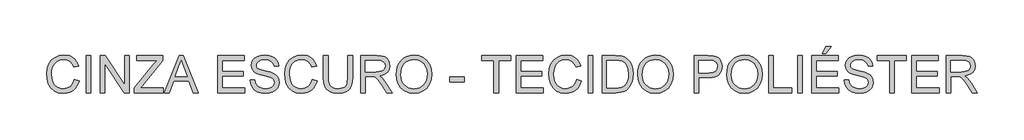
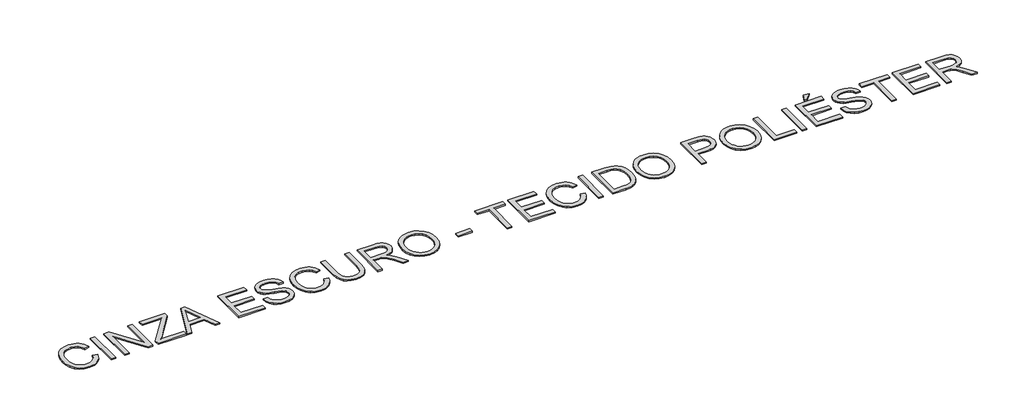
# One storey, part 29 of 67: 1 proxy.
"""IFC4 building model written with IfcOpenShell, lengths in millimetres."""

from ifc_helpers import new_model, si_unit, origin, origin_with_axes, place, context, project, spatial, polyline, outline, extrude, element, save

model = new_model("IFC4")

# Units and contexts
model_context = context("Model", 3, world=origin())
ifc_project = project(units=[si_unit("LENGTHUNIT", "METRE", prefix="MILLI")], contexts=[model_context])

# Site, building, storey
site = spatial("IfcSite", under=ifc_project)
building = spatial("IfcBuilding", under=site)
storey = spatial("IfcBuildingStorey", under=building, Name="Marelli - Linha COLAB - Planta Baixa", Elevation=0.0)

# Proxy
placement = place(None, origin())
element("IfcBuildingElementProxy", 1, Name="300mm Arial", ObjectType="300mm Arial", at=placement, inside=storey, context=model_context, shape_type="SweptSolid", body=[
    extrude(outline(polyline([(4863.1827266, -102423.4390831), (4900.8538429, -102433.1511677), (4893.399634, -102456.5783531), (4883.4714186, -102477.0486868), (4871.0691969, -102494.5621691), (4856.1929687, -102509.1187997), (4839.1784264, -102520.5622291), (4820.3612624, -102528.7361071), (4799.7414765, -102533.640434), (4777.3190689, -102535.2752096), (4733.6238849, -102530.3271968), (4698.9234157, -102515.4831583), (4672.3255475, -102491.2581289), (4652.9381663, -102458.1671434), (4641.1015632, -102419.2636224), (4637.1560288, -102377.6009865), (4641.6165979, -102333.6574821), (4654.9983055, -102295.7104543), (4676.6021757, -102264.9647166), (4705.7292327, -102242.6250824), (4740.273352, -102229.0226457), (4778.1284093, -102224.4885001), (4819.4323603, -102230.3562179), (4837.4010965, -102237.6908652), (4853.5810065, -102247.9593714), (4867.7053759, -102260.8904235), (4879.5074901, -102276.2127086), (4896.1449534, -102314.0309777), (4858.4738371, -102323.0072984), (4845.4140262, -102295.5357104), (4827.5717495, -102276.6909552), (4804.7262776, -102265.7924511), (4776.6568813, -102262.1596164), (4744.3016599, -102266.1879242), (4717.7221857, -102278.2728478), (4697.5530553, -102297.1451941), (4684.4288651, -102321.5357704), (4677.2275751, -102349.1085259), (4674.8271451, -102377.5274101), (4677.6690335, -102412.3290468), (4686.1946987, -102442.421794), (4700.7260375, -102466.6560205), (4721.5849466, -102483.8820949), (4746.5917253, -102494.1735937), (4773.5666726, -102497.6040933), (4805.0113861, -102492.931992), (4831.2137812, -102478.9156879), (4850.9966355, -102455.702334), (4863.1827266, -102423.4390831)])), origin_with_axes(), (0.0, 0.0, 1.0), 10.0),
    extrude(outline(polyline([(4957.3605174, -102530.5663201), (4957.3605174, -102229.1973896), (4995.0316337, -102229.1973896), (4995.0316337, -102530.5663201), (4957.3605174, -102530.5663201)])), origin_with_axes(), (0.0, 0.0, 1.0), 10.0),
    extrude(outline(polyline([(5070.3738663, -102530.5663201), (5070.3738663, -102229.1973896), (5110.6937329, -102229.1973896), (5268.1472269, -102467.9528045), (5268.1472269, -102229.1973896), (5305.8183432, -102229.1973896), (5305.8183432, -102530.5663201), (5265.4984765, -102530.5663201), (5108.0449826, -102291.7373288), (5108.0449826, -102530.5663201), (5070.3738663, -102530.5663201)])), origin_with_axes(), (0.0, 0.0, 1.0), 10.0),
    extrude(outline(polyline([(5348.198349, -102530.5663201), (5348.198349, -102491.4972522), (5502.340905, -102302.7737887), (5531.6243118, -102266.8685059), (5367.0339072, -102266.8685059), (5367.0339072, -102229.1973896), (5578.9339364, -102229.1973896), (5578.9339364, -102266.8685059), (5410.2232534, -102473.397458), (5394.3307512, -102492.8952038), (5583.6428259, -102492.8952038), (5583.6428259, -102530.5663201), (5348.198349, -102530.5663201)])), origin_with_axes(), (0.0, 0.0, 1.0), 10.0),
    extrude(outline(polyline([(5590.9268895, -102530.5663201), (5711.2243019, -102229.1973896), (5743.3036119, -102229.1973896), (5863.6010243, -102530.5663201), (5823.7961924, -102530.5663201), (5789.2888613, -102436.3885293), (5665.1654761, -102436.3885293), (5630.7317213, -102530.5663201), (5590.9268895, -102530.5663201)]), holes=[polyline([(5678.9978391, -102398.717413), (5775.5300746, -102398.717413), (5748.3803834, -102324.6259792), (5727.2639569, -102266.8685059), (5708.5019751, -102318.1512561), (5678.9978391, -102398.717413)])]), origin_with_axes(), (0.0, 0.0, 1.0), 10.0),
    extrude(outline(polyline([(6021.569553, -102530.5663201), (6021.569553, -102229.1973896), (6238.1784718, -102229.1973896), (6238.1784718, -102266.8685059), (6059.2406693, -102266.8685059), (6059.2406693, -102356.3374072), (6228.7606927, -102356.3374072), (6228.7606927, -102394.0085235), (6059.2406693, -102394.0085235), (6059.2406693, -102492.8952038), (6242.8873613, -102492.8952038), (6242.8873613, -102530.5663201), (6021.569553, -102530.5663201)])), origin_with_axes(), (0.0, 0.0, 1.0), 10.0),
    extrude(outline(polyline([(6285.2673671, -102426.9707502), (6322.9384835, -102426.9707502), (6327.2610969, -102447.8756446), (6335.0785893, -102464.6786547), (6347.2738774, -102478.0143771), (6364.7298781, -102488.517408), (6386.0670338, -102495.332422), (6409.9057871, -102497.6040933), (6430.8934549, -102495.884245), (6449.2691606, -102490.7247), (6464.1591844, -102482.5577197), (6474.6898065, -102471.8155654), (6480.9529974, -102459.4823216), (6483.0407278, -102446.5420724), (6481.4772293, -102433.932917), (6476.7867338, -102423.0344129), (6467.2585902, -102413.7361954), (6451.182147, -102405.9279001), (6396.3309415, -102391.5437141), (6360.3244912, -102382.0247675), (6337.2858813, -102372.9656733), (6318.5330966, -102360.2921386), (6305.2433595, -102344.9330653), (6297.3246995, -102327.2195472), (6294.6851462, -102307.4826782), (6297.9500989, -102285.4189555), (6307.7449571, -102264.845155), (6323.8122032, -102247.4075484), (6345.89432, -102234.7524077), (6372.4002177, -102227.054477), (6401.7388068, -102224.4885001), (6433.5238112, -102227.1740386), (6461.33569, -102235.2306543), (6484.1811619, -102248.4928003), (6501.0669455, -102266.7949295), (6511.7539175, -102288.9966079), (6516.0029545, -102313.9574013), (6478.3318382, -102313.9574013), (6471.4156567, -102291.4798114), (6456.9946825, -102275.2562154), (6434.4619103, -102265.4337661), (6403.2103348, -102262.1596164), (6371.2229953, -102265.3969779), (6349.2788343, -102275.1090626), (6336.5869055, -102289.4012781), (6332.3562625, -102306.3790322), (6335.3545008, -102320.8551887), (6344.3492156, -102332.4986539), (6365.6127949, -102342.9097143), (6405.8590852, -102353.541504), (6447.3929624, -102363.6398648), (6472.5193027, -102372.4506385), (6493.9944142, -102386.1174547), (6508.9764084, -102402.9848441), (6517.7779851, -102422.868866), (6520.7118441, -102445.5855792), (6517.3365268, -102468.8081301), (6507.2105748, -102490.6511236), (6490.7478556, -102509.4498935), (6468.3622361, -102523.539774), (6441.4424711, -102532.3413507), (6411.3773151, -102535.2752096), (6374.4695539, -102532.1114244), (6344.0916982, -102522.620069), (6319.8942599, -102506.764355), (6301.5277513, -102484.5074943), (6289.7371334, -102457.3945912), (6285.2673671, -102426.9707502)])), origin_with_axes(), (0.0, 0.0, 1.0), 10.0),
    extrude(outline(polyline([(6789.1185477, -102423.4390831), (6826.789664, -102433.1511677), (6819.3354551, -102456.5783531), (6809.4072398, -102477.0486868), (6797.005018, -102494.5621691), (6782.1287898, -102509.1187997), (6765.1142476, -102520.5622291), (6746.2970835, -102528.7361071), (6725.6772977, -102533.640434), (6703.2548901, -102535.2752096), (6659.5597061, -102530.3271968), (6624.8592369, -102515.4831583), (6598.2613686, -102491.2581289), (6578.8739875, -102458.1671434), (6567.0373843, -102419.2636224), (6563.0918499, -102377.6009865), (6567.5524191, -102333.6574821), (6580.9341267, -102295.7104543), (6602.5379968, -102264.9647166), (6631.6650538, -102242.6250824), (6666.2091732, -102229.0226457), (6704.0642305, -102224.4885001), (6745.3681815, -102230.3562179), (6763.3369177, -102237.6908652), (6779.5168277, -102247.9593714), (6793.641197, -102260.8904235), (6805.4433113, -102276.2127086), (6822.0807745, -102314.0309777), (6784.4096582, -102323.0072984), (6771.3498474, -102295.5357104), (6753.5075706, -102276.6909552), (6730.6620987, -102265.7924511), (6702.5927025, -102262.1596164), (6670.237481, -102266.1879242), (6643.6580068, -102278.2728478), (6623.4888765, -102297.1451941), (6610.3646863, -102321.5357704), (6603.1633962, -102349.1085259), (6600.7629662, -102377.5274101), (6603.6048546, -102412.3290468), (6612.1305199, -102442.421794), (6626.6618587, -102466.6560205), (6647.5207678, -102483.8820949), (6672.5275464, -102494.1735937), (6699.5024937, -102497.6040933), (6730.9472073, -102492.931992), (6757.1496024, -102478.9156879), (6776.9324567, -102455.702334), (6789.1185477, -102423.4390831)])), origin_with_axes(), (0.0, 0.0, 1.0), 10.0),
    extrude(outline(polyline([(7076.3608096, -102229.1973896), (7114.0319259, -102229.1973896), (7114.0319259, -102403.0584205), (7111.475146, -102443.7737604), (7103.8048064, -102475.1265034), (7089.4758027, -102499.3147446), (7066.9430305, -102518.5365788), (7036.1513075, -102531.0905519), (6997.0454514, -102535.2752096), (6958.794921, -102531.6331779), (6928.2147301, -102520.7070826), (6905.2956818, -102502.8740029), (6890.028579, -102478.5110178), (6881.4477315, -102445.8338995), (6878.587449, -102403.0584205), (6878.587449, -102229.1973896), (6916.2585653, -102229.1973896), (6916.2585653, -102401.7340454), (6918.1163694, -102435.588386), (6923.6897816, -102459.1604248), (6933.7881423, -102475.4851883), (6949.220792, -102487.597703), (6969.3439372, -102495.1024957), (6993.5137843, -102497.6040933), (7031.8286941, -102492.6560805), (7046.1714933, -102486.4710644), (7057.3045222, -102477.812042), (7065.6416479, -102465.6351479), (7071.5967377, -102448.8965171), (7076.3608096, -102401.7340454), (7076.3608096, -102229.1973896)])), origin_with_axes(), (0.0, 0.0, 1.0), 10.0),
    extrude(outline(polyline([(7179.9563794, -102530.5663201), (7179.9563794, -102229.1973896), (7309.8187237, -102229.1973896), (7344.721528, -102231.2299376), (7370.1145827, -102237.3275817), (7388.6742294, -102248.5847708), (7403.0768095, -102266.0959537), (7412.3198446, -102287.8101885), (7415.4008563, -102311.6765329), (7410.2964936, -102341.3646099), (7394.9834056, -102365.9759154), (7383.3836264, -102376.0052983), (7369.0017397, -102384.0205273), (7331.8916434, -102394.0085235), (7353.3023755, -102410.1217548), (7383.8365811, -102448.8965171), (7434.0892617, -102530.5663201), (7390.3113043, -102530.5663201), (7351.0950836, -102468.0999573), (7322.7681699, -102426.750021), (7302.865754, -102407.2154871), (7284.9499008, -102400.0417882), (7263.0977103, -102398.717413), (7217.6274957, -102398.717413), (7217.6274957, -102530.5663201), (7179.9563794, -102530.5663201)]), holes=[polyline([(7217.6274957, -102361.0462967), (7301.946049, -102361.0462967), (7326.1618814, -102359.7127245), (7344.9514543, -102355.7120078), (7359.096517, -102348.7774322), (7369.3788187, -102338.6422832), (7375.6420097, -102326.3826157), (7377.72974, -102313.0744845), (7373.7474174, -102294.6987789), (7361.8004496, -102279.8915286), (7341.2450432, -102270.1242616), (7311.4374045, -102266.8685059), (7217.6274957, -102266.8685059), (7217.6274957, -102361.0462967)])]), origin_with_axes(), (0.0, 0.0, 1.0), 10.0),
    extrude(outline(polyline([(7467.1986413, -102383.8549804), (7469.7094359, -102348.5061192), (7477.2418197, -102317.213157), (7489.7957928, -102289.9760937), (7507.3713551, -102266.7949295), (7528.9154445, -102248.2858666), (7553.3749986, -102235.0651074), (7580.7500176, -102227.1326519), (7611.0405014, -102224.4885001), (7650.5694217, -102229.454907), (7686.014852, -102244.3541278), (7715.4454116, -102268.1376988), (7736.9297201, -102299.7571563), (7750.0631073, -102337.68579), (7754.4409031, -102380.3968896), (7749.8331811, -102423.6782064), (7736.0100151, -102462.140269), (7713.7347603, -102493.8149087), (7683.7707718, -102516.733957), (7648.6288442, -102530.6398965), (7610.8197722, -102535.2752096), (7570.6838465, -102530.1524528), (7535.0360812, -102514.7841825), (7505.6790979, -102490.5591531), (7484.4155186, -102458.8661192), (7471.5028606, -102422.3998164), (7467.1986413, -102383.8549804)]), holes=[polyline([(7504.8697576, -102384.2228624), (7506.7528535, -102409.1974513), (7512.4021414, -102431.3669401), (7521.8176212, -102450.7313286), (7534.999293, -102467.2906169), (7551.0228531, -102480.5527628), (7568.9639982, -102490.0257242), (7588.8227281, -102495.709501), (7610.599043, -102497.6040933), (7632.7478383, -102495.6911069), (7652.8410931, -102489.9521478), (7670.8788071, -102480.3872159), (7686.8609806, -102466.9963113), (7699.9460833, -102450.0875351), (7709.2925852, -102429.9689885), (7714.9004864, -102406.6406715), (7716.7697868, -102380.102584), (7713.5692134, -102346.7540812), (7703.9674933, -102317.9305269), (7688.2129469, -102294.358488), (7666.5538944, -102276.7645316), (7640.4250757, -102265.8108452), (7611.2612306, -102262.1596164), (7590.2413731, -102263.9185522), (7570.7390288, -102269.1953595), (7552.7541978, -102277.9900385), (7536.2868799, -102290.302589), (7522.5418889, -102306.7262208), (7512.7240382, -102327.8541437), (7506.8333277, -102353.6863575), (7504.8697576, -102384.2228624)])]), origin_with_axes(), (0.0, 0.0, 1.0), 10.0),
    extrude(outline(polyline([(7900.4164788, -102441.0974188), (7900.4164788, -102403.4263025), (8018.1387172, -102403.4263025), (8018.1387172, -102441.0974188), (7900.4164788, -102441.0974188)])), origin_with_axes(), (0.0, 0.0, 1.0), 10.0),
    extrude(outline(polyline([(8258.2920837, -102530.5663201), (8258.2920837, -102266.8685059), (8159.4054034, -102266.8685059), (8159.4054034, -102229.1973896), (8394.8498803, -102229.1973896), (8394.8498803, -102266.8685059), (8295.9632, -102266.8685059), (8295.9632, -102530.5663201), (8258.2920837, -102530.5663201)])), origin_with_axes(), (0.0, 0.0, 1.0), 10.0),
    extrude(outline(polyline([(8437.2298861, -102530.5663201), (8437.2298861, -102229.1973896), (8653.8388049, -102229.1973896), (8653.8388049, -102266.8685059), (8474.9010024, -102266.8685059), (8474.9010024, -102356.3374072), (8644.4210258, -102356.3374072), (8644.4210258, -102394.0085235), (8474.9010024, -102394.0085235), (8474.9010024, -102492.8952038), (8658.5476944, -102492.8952038), (8658.5476944, -102530.5663201), (8437.2298861, -102530.5663201)])), origin_with_axes(), (0.0, 0.0, 1.0), 10.0),
    extrude(outline(polyline([(8926.9543981, -102423.4390831), (8964.6255144, -102433.1511677), (8957.1713055, -102456.5783531), (8947.2430901, -102477.0486868), (8934.8408684, -102494.5621691), (8919.9646402, -102509.1187997), (8902.9500979, -102520.5622291), (8884.1329339, -102528.7361071), (8863.513148, -102533.640434), (8841.0907404, -102535.2752096), (8797.3955565, -102530.3271968), (8762.6950873, -102515.4831583), (8736.097219, -102491.2581289), (8716.7098379, -102458.1671434), (8704.8732347, -102419.2636224), (8700.9277003, -102377.6009865), (8705.3882695, -102333.6574821), (8718.769977, -102295.7104543), (8740.3738472, -102264.9647166), (8769.5009042, -102242.6250824), (8804.0450235, -102229.0226457), (8841.9000808, -102224.4885001), (8883.2040318, -102230.3562179), (8901.172768, -102237.6908652), (8917.352678, -102247.9593714), (8931.4770474, -102260.8904235), (8943.2791616, -102276.2127086), (8959.9166249, -102314.0309777), (8922.2455086, -102323.0072984), (8909.1856977, -102295.5357104), (8891.343421, -102276.6909552), (8868.4979491, -102265.7924511), (8840.4285528, -102262.1596164), (8808.0733314, -102266.1879242), (8781.4938572, -102278.2728478), (8761.3247268, -102297.1451941), (8748.2005367, -102321.5357704), (8740.9992466, -102349.1085259), (8738.5988166, -102377.5274101), (8741.440705, -102412.3290468), (8749.9663702, -102442.421794), (8764.497709, -102466.6560205), (8785.3566182, -102483.8820949), (8810.3633968, -102494.1735937), (8837.3383441, -102497.6040933), (8868.7830576, -102492.931992), (8894.9854527, -102478.9156879), (8914.768307, -102455.702334), (8926.9543981, -102423.4390831)])), origin_with_axes(), (0.0, 0.0, 1.0), 10.0),
    extrude(outline(polyline([(9021.1321889, -102530.5663201), (9021.1321889, -102229.1973896), (9058.8033052, -102229.1973896), (9058.8033052, -102530.5663201), (9021.1321889, -102530.5663201)])), origin_with_axes(), (0.0, 0.0, 1.0), 10.0),
    extrude(outline(polyline([(9134.1455378, -102530.5663201), (9134.1455378, -102229.1973896), (9238.1089896, -102229.1973896), (9291.8933373, -102233.5383972), (9315.9160316, -102241.9077126), (9336.1863295, -102255.0962821), (9357.0268446, -102278.0521186), (9371.8708831, -102306.5997614), (9380.7552333, -102340.1873876), (9383.7166833, -102378.2631741), (9381.7117265, -102410.6091985), (9375.6968558, -102439.0740679), (9366.5365941, -102463.3082943), (9355.0954641, -102482.9623899), (9341.9252887, -102498.477813), (9327.5778909, -102510.2960221), (9311.1059745, -102519.0608107), (9291.5622435, -102525.4159721), (9243.1121848, -102530.5663201), (9134.1455378, -102530.5663201)]), holes=[polyline([(9171.8166541, -102492.8952038), (9238.4768716, -102492.8952038), (9266.0496272, -102491.5340404), (9286.9637186, -102487.4505502), (9302.7458562, -102480.8838566), (9314.9227502, -102472.0730828), (9328.0101522, -102455.7667134), (9337.8417985, -102434.6594839), (9343.9946249, -102408.6594239), (9346.045567, -102377.6745629), (9342.0264562, -102336.6189322), (9329.9691238, -102306.3054558), (9312.1544382, -102285.4833349), (9290.8632677, -102272.9017706), (9269.1950182, -102268.3768221), (9237.446802, -102266.8685059), (9171.8166541, -102266.8685059), (9171.8166541, -102492.8952038)])]), origin_with_axes(), (0.0, 0.0, 1.0), 10.0),
    extrude(outline(polyline([(9421.3877996, -102383.8549804), (9423.8985942, -102348.5061192), (9431.4309781, -102317.213157), (9443.9849512, -102289.9760937), (9461.5605135, -102266.7949295), (9483.1046028, -102248.2858666), (9507.564157, -102235.0651074), (9534.939176, -102227.1326519), (9565.2296597, -102224.4885001), (9604.7585801, -102229.454907), (9640.2040104, -102244.3541278), (9669.63457, -102268.1376988), (9691.1188785, -102299.7571563), (9704.2522657, -102337.68579), (9708.6300615, -102380.3968896), (9704.0223395, -102423.6782064), (9690.1991735, -102462.140269), (9667.9239187, -102493.8149087), (9637.9599302, -102516.733957), (9602.8180026, -102530.6398965), (9565.0089305, -102535.2752096), (9524.8730049, -102530.1524528), (9489.2252395, -102514.7841825), (9459.8682563, -102490.5591531), (9438.604677, -102458.8661192), (9425.692019, -102422.3998164), (9421.3877996, -102383.8549804)]), holes=[polyline([(9459.0589159, -102384.2228624), (9460.9420119, -102409.1974513), (9466.5912998, -102431.3669401), (9476.0067796, -102450.7313286), (9489.1884513, -102467.2906169), (9505.2120115, -102480.5527628), (9523.1531565, -102490.0257242), (9543.0118865, -102495.709501), (9564.7882014, -102497.6040933), (9586.9369967, -102495.6911069), (9607.0302514, -102489.9521478), (9625.0679655, -102480.3872159), (9641.050139, -102466.9963113), (9654.1352417, -102450.0875351), (9663.4817436, -102429.9689885), (9669.0896448, -102406.6406715), (9670.9589452, -102380.102584), (9667.7583718, -102346.7540812), (9658.1566517, -102317.9305269), (9642.4021053, -102294.358488), (9620.7430528, -102276.7645316), (9594.6142341, -102265.8108452), (9565.4503889, -102262.1596164), (9544.4305314, -102263.9185522), (9524.9281872, -102269.1953595), (9506.9433561, -102277.9900385), (9490.4760383, -102290.302589), (9476.7310473, -102306.7262208), (9466.9131965, -102327.8541437), (9461.0224861, -102353.6863575), (9459.0589159, -102384.2228624)])]), origin_with_axes(), (0.0, 0.0, 1.0), 10.0),
    extrude(outline(polyline([(9878.1500848, -102530.5663201), (9878.1500848, -102229.1973896), (9989.8390586, -102229.1973896), (10034.8678148, -102232.0668692), (10054.9449747, -102237.4287493), (10071.4720733, -102246.1567496), (10084.7802045, -102258.6463433), (10095.200462, -102275.2930036), (10101.9327025, -102294.9287051), (10104.1767827, -102316.3854225), (10102.6615687, -102334.8852883), (10098.1159268, -102351.9044291), (10090.539857, -102367.4428449), (10079.9333592, -102381.5005356), (10065.37213, -102393.1531978), (10045.9318658, -102401.476528), (10021.6125666, -102406.470526), (9992.4142325, -102408.1351921), (9915.8212011, -102408.1351921), (9915.8212011, -102530.5663201), (9878.1500848, -102530.5663201)]), holes=[polyline([(9915.8212011, -102370.4640758), (9994.6215245, -102370.4640758), (10028.0252097, -102367.005985), (10050.0981294, -102356.6317127), (10062.4037821, -102339.9850525), (10066.5056664, -102317.7097977), (10064.0868423, -102300.7872259), (10056.8303699, -102286.5134045), (10045.6375602, -102275.7712502), (10031.409724, -102269.4436799), (9993.7386077, -102266.8685059), (9915.8212011, -102266.8685059), (9915.8212011, -102370.4640758)])]), origin_with_axes(), (0.0, 0.0, 1.0), 10.0),
    extrude(outline(polyline([(10141.847899, -102383.8549804), (10144.3586936, -102348.5061192), (10151.8910775, -102317.213157), (10164.4450505, -102289.9760937), (10182.0206129, -102266.7949295), (10203.5647022, -102248.2858666), (10228.0242564, -102235.0651074), (10255.3992753, -102227.1326519), (10285.6897591, -102224.4885001), (10325.2186795, -102229.454907), (10360.6641097, -102244.3541278), (10390.0946693, -102268.1376988), (10411.5789778, -102299.7571563), (10424.7123651, -102337.68579), (10429.0901608, -102380.3968896), (10424.4824388, -102423.6782064), (10410.6592729, -102462.140269), (10388.3840181, -102493.8149087), (10358.4200295, -102516.733957), (10323.278102, -102530.6398965), (10285.4690299, -102535.2752096), (10245.3331042, -102530.1524528), (10209.6853389, -102514.7841825), (10180.3283557, -102490.5591531), (10159.0647764, -102458.8661192), (10146.1521183, -102422.3998164), (10141.847899, -102383.8549804)]), holes=[polyline([(10179.5190153, -102384.2228624), (10181.4021113, -102409.1974513), (10187.0513991, -102431.3669401), (10196.466879, -102450.7313286), (10209.6485507, -102467.2906169), (10225.6721108, -102480.5527628), (10243.6132559, -102490.0257242), (10263.4719859, -102495.709501), (10285.2483007, -102497.6040933), (10307.3970961, -102495.6911069), (10327.4903508, -102489.9521478), (10345.5280649, -102480.3872159), (10361.5102383, -102466.9963113), (10374.595341, -102450.0875351), (10383.941843, -102429.9689885), (10389.5497441, -102406.6406715), (10391.4190445, -102380.102584), (10388.2184712, -102346.7540812), (10378.6167511, -102317.9305269), (10362.8622046, -102294.358488), (10341.2031522, -102276.7645316), (10315.0743335, -102265.8108452), (10285.9104883, -102262.1596164), (10264.8906308, -102263.9185522), (10245.3882865, -102269.1953595), (10227.4034555, -102277.9900385), (10210.9361377, -102290.302589), (10197.1911466, -102306.7262208), (10187.3732959, -102327.8541437), (10181.4825854, -102353.6863575), (10179.5190153, -102384.2228624)])]), origin_with_axes(), (0.0, 0.0, 1.0), 10.0),
    extrude(outline(polyline([(10480.8879457, -102530.5663201), (10480.8879457, -102229.1973896), (10518.559062, -102229.1973896), (10518.559062, -102492.8952038), (10669.2435273, -102492.8952038), (10669.2435273, -102530.5663201), (10480.8879457, -102530.5663201)])), origin_with_axes(), (0.0, 0.0, 1.0), 10.0),
    extrude(outline(polyline([(10716.3324227, -102530.5663201), (10716.3324227, -102229.1973896), (10754.003539, -102229.1973896), (10754.003539, -102530.5663201), (10716.3324227, -102530.5663201)])), origin_with_axes(), (0.0, 0.0, 1.0), 10.0),
    extrude(outline(polyline([(10829.3457716, -102530.5663201), (10829.3457716, -102229.1973896), (11045.9546903, -102229.1973896), (11045.9546903, -102266.8685059), (10867.0168879, -102266.8685059), (10867.0168879, -102356.3374072), (11036.5369113, -102356.3374072), (11036.5369113, -102394.0085235), (10867.0168879, -102394.0085235), (10867.0168879, -102492.8952038), (11050.6635799, -102492.8952038), (11050.6635799, -102530.5663201), (10829.3457716, -102530.5663201)])), origin_with_axes(), (0.0, 0.0, 1.0), 10.0),
    extrude(outline(polyline([(10914.1057833, -102210.3618315), (10942.3591205, -102153.855157), (10989.4480159, -102153.855157), (10942.3591205, -102210.3618315), (10914.1057833, -102210.3618315)])), origin_with_axes(), (0.0, 0.0, 1.0), 10.0),
    extrude(outline(polyline([(11093.0435857, -102426.9707502), (11130.714702, -102426.9707502), (11135.0373155, -102447.8756446), (11142.8548079, -102464.6786547), (11155.050096, -102478.0143771), (11172.5060967, -102488.517408), (11193.8432524, -102495.332422), (11217.6820057, -102497.6040933), (11238.6696735, -102495.884245), (11257.0453792, -102490.7247), (11271.9354029, -102482.5577197), (11282.466025, -102471.8155654), (11288.729216, -102459.4823216), (11290.8169463, -102446.5420724), (11289.2534478, -102433.932917), (11284.5629524, -102423.0344129), (11275.0348087, -102413.7361954), (11258.9583655, -102405.9279001), (11204.1071601, -102391.5437141), (11168.1007098, -102382.0247675), (11145.0620998, -102372.9656733), (11126.3093151, -102360.2921386), (11113.0195781, -102344.9330653), (11105.1009181, -102327.2195472), (11102.4613648, -102307.4826782), (11105.7263175, -102285.4189555), (11115.5211756, -102264.845155), (11131.5884218, -102247.4075484), (11153.6705385, -102234.7524077), (11180.1764363, -102227.054477), (11209.5150254, -102224.4885001), (11241.3000298, -102227.1740386), (11269.1119086, -102235.2306543), (11291.9573805, -102248.4928003), (11308.8431641, -102266.7949295), (11319.530136, -102288.9966079), (11323.7791731, -102313.9574013), (11286.1080568, -102313.9574013), (11279.1918753, -102291.4798114), (11264.7709011, -102275.2562154), (11242.2381289, -102265.4337661), (11210.9865534, -102262.1596164), (11178.9992139, -102265.3969779), (11157.0550529, -102275.1090626), (11144.363124, -102289.4012781), (11140.1324811, -102306.3790322), (11143.1307194, -102320.8551887), (11152.1254341, -102332.4986539), (11173.3890135, -102342.9097143), (11213.6353037, -102353.541504), (11255.169181, -102363.6398648), (11280.2955213, -102372.4506385), (11301.7706327, -102386.1174547), (11316.752627, -102402.9848441), (11325.5542037, -102422.868866), (11328.4880626, -102445.5855792), (11325.1127453, -102468.8081301), (11314.9867934, -102490.6511236), (11298.5240741, -102509.4498935), (11276.1384547, -102523.539774), (11249.2186897, -102532.3413507), (11219.1535337, -102535.2752096), (11182.2457725, -102532.1114244), (11151.8679167, -102522.620069), (11127.6704785, -102506.764355), (11109.3039699, -102484.5074943), (11097.513352, -102457.3945912), (11093.0435857, -102426.9707502)])), origin_with_axes(), (0.0, 0.0, 1.0), 10.0),
    extrude(outline(polyline([(11460.3369697, -102530.5663201), (11460.3369697, -102266.8685059), (11361.4502894, -102266.8685059), (11361.4502894, -102229.1973896), (11596.8947663, -102229.1973896), (11596.8947663, -102266.8685059), (11498.008086, -102266.8685059), (11498.008086, -102530.5663201), (11460.3369697, -102530.5663201)])), origin_with_axes(), (0.0, 0.0, 1.0), 10.0),
    extrude(outline(polyline([(11639.2747722, -102530.5663201), (11639.2747722, -102229.1973896), (11855.8836909, -102229.1973896), (11855.8836909, -102266.8685059), (11676.9458885, -102266.8685059), (11676.9458885, -102356.3374072), (11846.4659118, -102356.3374072), (11846.4659118, -102394.0085235), (11676.9458885, -102394.0085235), (11676.9458885, -102492.8952038), (11860.5925805, -102492.8952038), (11860.5925805, -102530.5663201), (11639.2747722, -102530.5663201)])), origin_with_axes(), (0.0, 0.0, 1.0), 10.0),
    extrude(outline(polyline([(11917.0992549, -102530.5663201), (11917.0992549, -102229.1973896), (12046.9615992, -102229.1973896), (12081.8644035, -102231.2299376), (12107.2574582, -102237.3275817), (12125.8171049, -102248.5847708), (12140.219685, -102266.0959537), (12149.4627201, -102287.8101885), (12152.5437318, -102311.6765329), (12147.4393691, -102341.3646099), (12132.1262811, -102365.9759154), (12120.5265019, -102376.0052983), (12106.1446152, -102384.0205273), (12069.0345189, -102394.0085235), (12090.445251, -102410.1217548), (12120.9794566, -102448.8965171), (12171.2321372, -102530.5663201), (12127.4541798, -102530.5663201), (12088.2379591, -102468.0999573), (12059.9110454, -102426.750021), (12040.0086295, -102407.2154871), (12022.0927763, -102400.0417882), (12000.2405858, -102398.717413), (11954.7703712, -102398.717413), (11954.7703712, -102530.5663201), (11917.0992549, -102530.5663201)]), holes=[polyline([(11954.7703712, -102361.0462967), (12039.0889245, -102361.0462967), (12063.3047568, -102359.7127245), (12082.0943297, -102355.7120078), (12096.2393925, -102348.7774322), (12106.5216942, -102338.6422832), (12112.7848852, -102326.3826157), (12114.8726155, -102313.0744845), (12110.8902929, -102294.6987789), (12098.9433251, -102279.8915286), (12078.3879186, -102270.1242616), (12048.58028, -102266.8685059), (11954.7703712, -102266.8685059), (11954.7703712, -102361.0462967)])]), origin_with_axes(), (0.0, 0.0, 1.0), 10.0),
])

save(model, "model.ifc")
